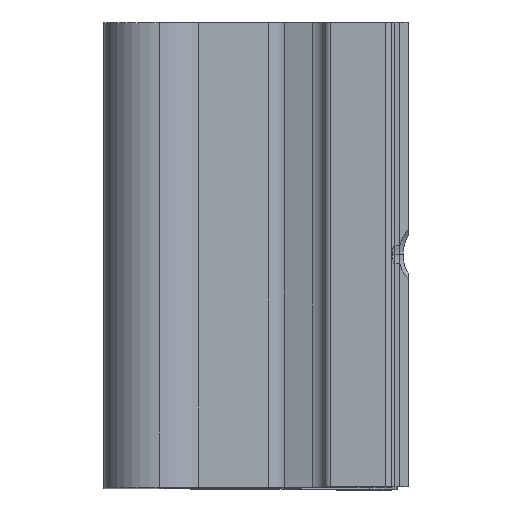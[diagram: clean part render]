
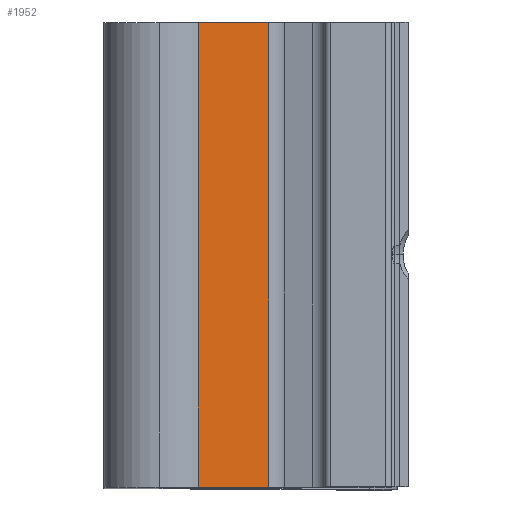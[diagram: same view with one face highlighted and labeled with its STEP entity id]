
A CAD part, top view. The second image highlights one B-rep face of the part: STEP entity #1952.
In plain terms, the highlighted planar face has unit normal (0.707, 0, 0.707).
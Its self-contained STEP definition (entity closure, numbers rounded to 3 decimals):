
#62 = VECTOR ( 'NONE', #1921, 1000. ) ;
#79 = DIRECTION ( 'NONE',  ( 0., -1., 0. ) ) ;
#136 = FACE_OUTER_BOUND ( 'NONE', #179, .T. ) ;
#179 = EDGE_LOOP ( 'NONE', ( #1365, #779, #299, #1894 ) ) ;
#219 = LINE ( 'NONE', #1931, #609 ) ;
#299 = ORIENTED_EDGE ( 'NONE', *, *, #1167, .F. ) ;
#422 = CARTESIAN_POINT ( 'NONE',  ( -17.465, 42., 150.736 ) ) ;
#434 = CARTESIAN_POINT ( 'NONE',  ( -11.118, 2., 144.389 ) ) ;
#522 = EDGE_CURVE ( 'NONE', #1037, #1176, #1216, .T. ) ;
#551 = VERTEX_POINT ( 'NONE', #780 ) ;
#558 = CARTESIAN_POINT ( 'NONE',  ( -17.465, 2., 150.736 ) ) ;
#584 = VECTOR ( 'NONE', #79, 1000. ) ;
#609 = VECTOR ( 'NONE', #1759, 1000. ) ;
#779 = ORIENTED_EDGE ( 'NONE', *, *, #522, .T. ) ;
#780 = CARTESIAN_POINT ( 'NONE',  ( -17.465, 0., 150.736 ) ) ;
#920 = LINE ( 'NONE', #558, #1070 ) ;
#1018 = EDGE_CURVE ( 'NONE', #1283, #551, #219, .T. ) ;
#1021 = LINE ( 'NONE', #434, #584 ) ;
#1037 = VERTEX_POINT ( 'NONE', #1922 ) ;
#1070 = VECTOR ( 'NONE', #1208, 1000. ) ;
#1133 = DIRECTION ( 'NONE',  ( -0.707, 0., -0.707 ) ) ;
#1167 = EDGE_CURVE ( 'NONE', #551, #1176, #920, .T. ) ;
#1176 = VERTEX_POINT ( 'NONE', #422 ) ;
#1208 = DIRECTION ( 'NONE',  ( 0., 1., 0. ) ) ;
#1216 = LINE ( 'NONE', #1408, #62 ) ;
#1221 = EDGE_CURVE ( 'NONE', #1037, #1283, #1021, .T. ) ;
#1283 = VERTEX_POINT ( 'NONE', #1505 ) ;
#1365 = ORIENTED_EDGE ( 'NONE', *, *, #1221, .F. ) ;
#1408 = CARTESIAN_POINT ( 'NONE',  ( -11.118, 42., 144.389 ) ) ;
#1505 = CARTESIAN_POINT ( 'NONE',  ( -11.118, 0., 144.389 ) ) ;
#1759 = DIRECTION ( 'NONE',  ( -0.707, 0., 0.707 ) ) ;
#1795 = CARTESIAN_POINT ( 'NONE',  ( -11.118, 2., 144.389 ) ) ;
#1894 = ORIENTED_EDGE ( 'NONE', *, *, #1018, .F. ) ;
#1921 = DIRECTION ( 'NONE',  ( -0.707, 0., 0.707 ) ) ;
#1922 = CARTESIAN_POINT ( 'NONE',  ( -11.118, 42., 144.389 ) ) ;
#1926 = AXIS2_PLACEMENT_3D ( 'NONE', #1795, #1133, #1959 ) ;
#1931 = CARTESIAN_POINT ( 'NONE',  ( -11.118, 0., 144.389 ) ) ;
#1952 = ADVANCED_FACE ( 'NONE', ( #136 ), #2108, .F. ) ;
#1959 = DIRECTION ( 'NONE',  ( -0.707, 0., 0.707 ) ) ;
#2108 = PLANE ( 'NONE',  #1926 ) ;
